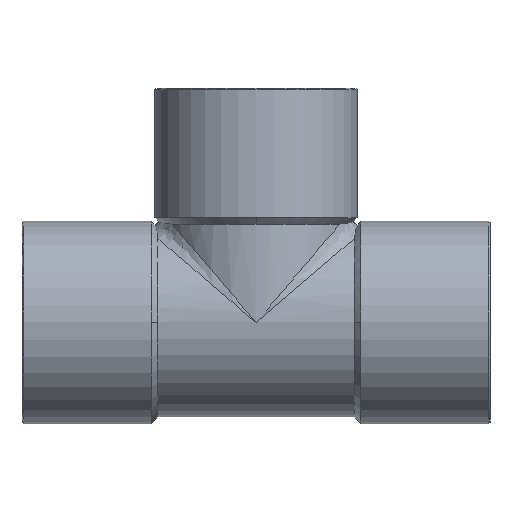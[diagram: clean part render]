
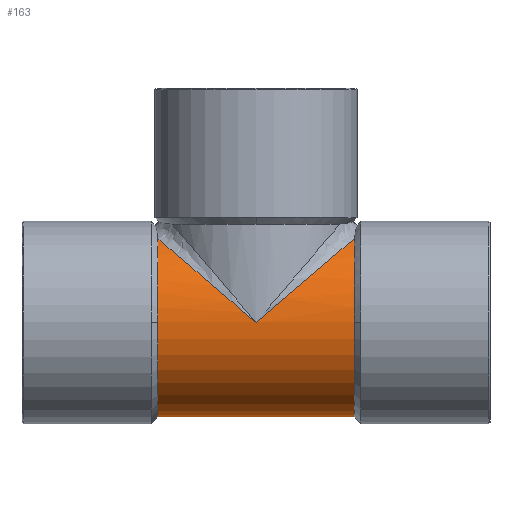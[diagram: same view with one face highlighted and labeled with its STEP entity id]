
A CAD part, top view. The second image highlights one B-rep face of the part: STEP entity #163.
In plain terms, the highlighted cylindrical face has radius 17.55 mm (diameter 35.1 mm), a partial arc.
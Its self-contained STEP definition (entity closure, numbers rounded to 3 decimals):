
#77=CARTESIAN_POINT('',(18.25,0.,17.55));
#78=VERTEX_POINT('',#77);
#85=CARTESIAN_POINT('',(18.25,-17.55,0.));
#86=VERTEX_POINT('',#85);
#87=CARTESIAN_POINT('',(18.25,0.,0.0));
#88=DIRECTION('',(-1.0,0.0,0.0));
#89=DIRECTION('',(0.0,1.0,0.0));
#90=AXIS2_PLACEMENT_3D('',#87,#88,#89);
#91=CIRCLE('',#90,17.55);
#92=EDGE_CURVE('',#86,#78,#91,.T.);
#104=CARTESIAN_POINT('',(0.,0.,0.0));
#105=DIRECTION('',(1.0,0.,0.0));
#106=DIRECTION('',(0.0,1.0,0.0));
#107=AXIS2_PLACEMENT_3D('',#104,#105,#106);
#108=CYLINDRICAL_SURFACE('',#107,17.55);
#109=CARTESIAN_POINT('',(-18.25,-17.55,0.));
#110=VERTEX_POINT('',#109);
#111=CARTESIAN_POINT('',(18.25,-17.55,0.));
#112=DIRECTION('',(-1.0,0.0,0.0));
#113=VECTOR('',#112,36.5);
#114=LINE('',#111,#113);
#115=EDGE_CURVE('',#86,#110,#114,.T.);
#116=ORIENTED_EDGE('',*,*,#115,.F.);
#117=ORIENTED_EDGE('',*,*,#92,.T.);
#118=CARTESIAN_POINT('',(18.25,15.586,8.068));
#119=VERTEX_POINT('',#118);
#120=CARTESIAN_POINT('',(18.25,0.,0.0));
#121=DIRECTION('',(-1.0,0.0,0.0));
#122=DIRECTION('',(0.0,1.0,0.0));
#123=AXIS2_PLACEMENT_3D('',#120,#121,#122);
#124=CIRCLE('',#123,17.55);
#125=EDGE_CURVE('',#78,#119,#124,.T.);
#126=ORIENTED_EDGE('',*,*,#125,.T.);
#127=CARTESIAN_POINT('',(0.,0.,17.55));
#128=VERTEX_POINT('',#127);
#129=CARTESIAN_POINT('',(0.0,0.,0.0));
#130=DIRECTION('',(-0.649,0.76,0.));
#131=DIRECTION('',(0.76,0.649,0.0));
#132=AXIS2_PLACEMENT_3D('',#129,#130,#131);
#133=ELLIPSE('',#132,27.024,17.55);
#134=EDGE_CURVE('',#128,#119,#133,.T.);
#135=ORIENTED_EDGE('',*,*,#134,.F.);
#136=CARTESIAN_POINT('',(-18.25,15.586,8.068));
#137=VERTEX_POINT('',#136);
#138=CARTESIAN_POINT('',(0.0,0.,0.0));
#139=DIRECTION('',(0.649,0.76,0.));
#140=DIRECTION('',(-0.76,0.649,0.0));
#141=AXIS2_PLACEMENT_3D('',#138,#139,#140);
#142=ELLIPSE('',#141,27.024,17.55);
#143=EDGE_CURVE('',#137,#128,#142,.T.);
#144=ORIENTED_EDGE('',*,*,#143,.F.);
#145=CARTESIAN_POINT('',(-18.25,0.,17.55));
#146=VERTEX_POINT('',#145);
#147=CARTESIAN_POINT('',(-18.25,0.,0.0));
#148=DIRECTION('',(1.0,0.0,0.0));
#149=DIRECTION('',(0.0,1.0,0.0));
#150=AXIS2_PLACEMENT_3D('',#147,#148,#149);
#151=CIRCLE('',#150,17.55);
#152=EDGE_CURVE('',#137,#146,#151,.T.);
#153=ORIENTED_EDGE('',*,*,#152,.T.);
#154=CARTESIAN_POINT('',(-18.25,0.,0.0));
#155=DIRECTION('',(1.0,0.0,0.0));
#156=DIRECTION('',(0.0,1.0,0.0));
#157=AXIS2_PLACEMENT_3D('',#154,#155,#156);
#158=CIRCLE('',#157,17.55);
#159=EDGE_CURVE('',#146,#110,#158,.T.);
#160=ORIENTED_EDGE('',*,*,#159,.T.);
#161=EDGE_LOOP('',(#116,#117,#126,#135,#144,#153,#160));
#162=FACE_OUTER_BOUND('',#161,.T.);
#163=ADVANCED_FACE('',(#162),#108,.T.);
